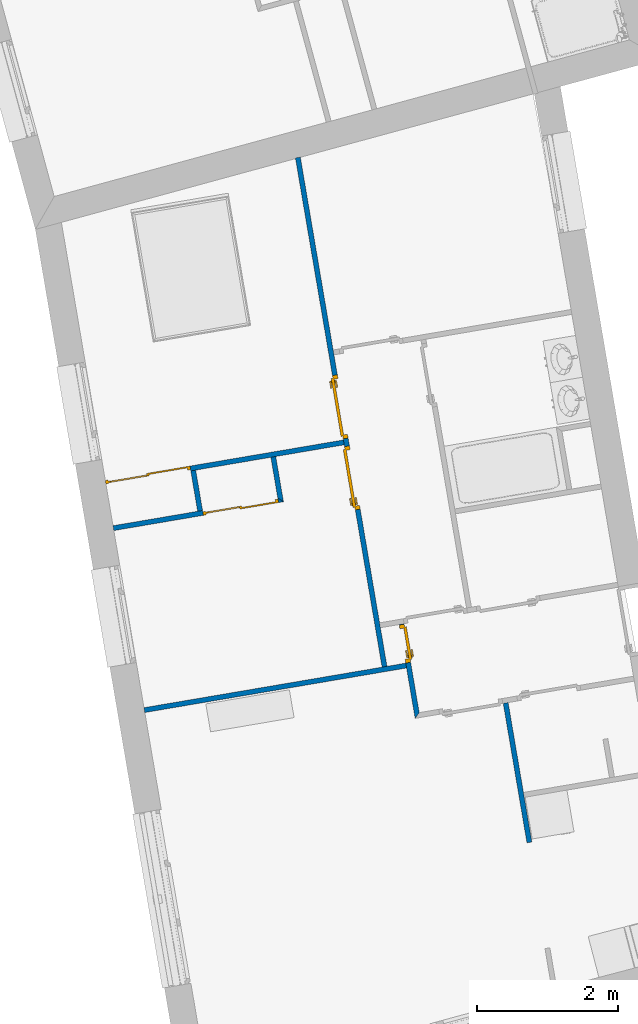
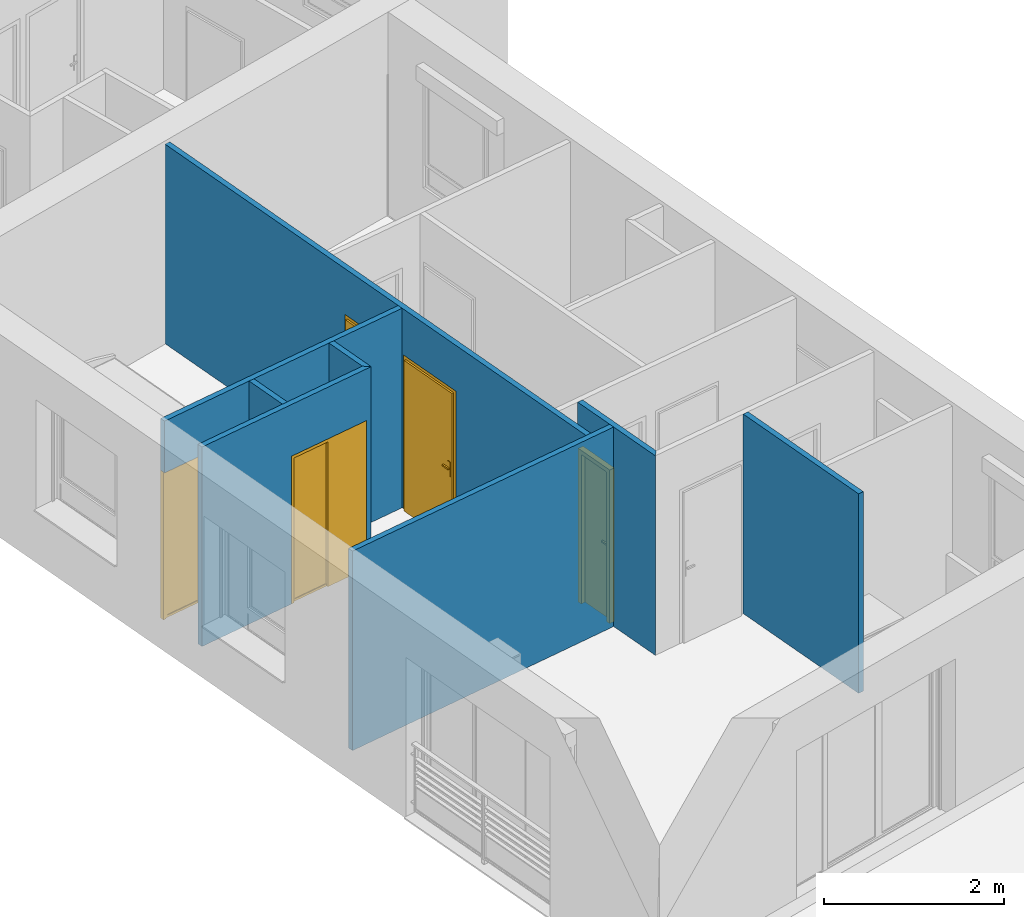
# One storey, part 74 of 121: 8 walls, 5 doors, 5 openings.
"""IFC2X3 building model written with IfcOpenShell, lengths in metres."""

from ifc_helpers import new_model, entity, si_unit, converted_unit, derived_unit, money_unit, direction, frame, origin_with_axes, origin_2d_with_axis, place, context, subcontext, project, spatial, polyline, rectangle, outline, extrude, open_shell, faceted_brep, surface_model, source, transform, mapped, material, layer, layer_set, layer_usage, type_object, element, fill, save


model = new_model("IFC2X3")

# Units and contexts
model_context = context("Model", 3, precision=1e-05, world=origin_with_axes(), true_north=direction((0.0, 1.0)))
body_context = subcontext(model_context, "Body", "Model", "MODEL_VIEW")
ifc_project = project(units=[si_unit("LENGTHUNIT", "METRE"), si_unit("AREAUNIT", "SQUARE_METRE"), si_unit("VOLUMEUNIT", "CUBIC_METRE"), converted_unit("PLANEANGLEUNIT", "DEGREE", entity("IfcPlaneAngleMeasure", 0.0174532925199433), si_unit("PLANEANGLEUNIT", "RADIAN"), dimensions=[0, 0, 0, 0, 0, 0, 0]), money_unit("CHF"), converted_unit("TIMEUNIT", "Year", entity("IfcTimeMeasure", 31557600.0), si_unit("TIMEUNIT", "SECOND"), dimensions=[0, 0, 1, 0, 0, 0, 0]), si_unit("MASSUNIT", "GRAM", prefix="KILO"), si_unit("THERMODYNAMICTEMPERATUREUNIT", "DEGREE_CELSIUS"), si_unit("LUMINOUSINTENSITYUNIT", "LUMEN"), si_unit("ENERGYUNIT", "JOULE", prefix="MEGA"), derived_unit("THERMALCONDUCTANCEUNIT", [(si_unit("POWERUNIT", "WATT"), 1), (si_unit("LENGTHUNIT", "METRE"), -1), (si_unit("THERMODYNAMICTEMPERATUREUNIT", "KELVIN"), -1)]), derived_unit("SPECIFICHEATCAPACITYUNIT", [(si_unit("ENERGYUNIT", "JOULE"), 1), (si_unit("MASSUNIT", "GRAM", prefix="KILO"), -1), (si_unit("THERMODYNAMICTEMPERATUREUNIT", "KELVIN"), -1)]), derived_unit("MASSDENSITYUNIT", [(si_unit("MASSUNIT", "GRAM", prefix="KILO"), 1), (si_unit("VOLUMEUNIT", "CUBIC_METRE"), -1)])], contexts=[model_context])

# Site, building, storey
site_placement = place(None, origin_with_axes())
site = spatial("IfcSite", under=ifc_project, at=site_placement, Name="Site", CompositionType="ELEMENT")
building_placement = place(site_placement, origin_with_axes())
building = spatial("IfcBuilding", under=site, at=building_placement, Name="Bâtiment", CompositionType="ELEMENT")
storey_placement = place(building_placement, frame((0.0, 0.0, 2.75), z_axis=(0.0, 0.0, 1.0), x_axis=(1.0, 0.0, 0.0)))
storey = spatial("IfcBuildingStorey", under=building, at=storey_placement, Name="Etage 1", CompositionType="ELEMENT", Elevation=2.75)

# Wall, opening, door
ifc_material = material(Name="Hachure solide 268963992")
ifc_layer = layer(ifc_material, 0.07, ventilated="UNKNOWN")
ifc_layer_set = layer_set([ifc_layer], Name="Cloison 70 0826278243")
ifc_layer_usage_1 = layer_usage(ifc_layer_set, "AXIS2", "NEGATIVE", 0.0)
wall_type = type_object("IfcWallType", Name="Cloison 70 0826278243 70", PredefinedType="NOTDEFINED")
wall_1_placement = place(storey_placement, frame((9585.211298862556, -1029.967921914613, 57.7), z_axis=(0.0, 0.0, 1.0), x_axis=(-0.1677527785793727, 0.98582909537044, 0.0)))
wall_1 = element("IfcWallStandardCase", 1, at=wall_1_placement, inside=storey, type_object=wall_type, material=ifc_layer_usage_1, Name="Mur-149", context=body_context, shape_type="SweptSolid", body=[
    extrude(outline(polyline([(0.07000000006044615, -0.07000000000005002), (1.348501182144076, -0.07000000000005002), (1.348501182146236, 0.0), (0.0, 0.0), (0.07000000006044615, -0.07000000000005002)])), origin_with_axes(), (0.0, 0.0, 1.0), 2.7),
])
opening_1_placement = place(wall_1_placement, frame((1.067283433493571, 0.0, 0.0), z_axis=(0.0, 0.0, 1.0), x_axis=(1.0, 0.0, 0.0)))
opening_1 = element("IfcOpeningElement", 2, at=opening_1_placement, cuts=wall_1, Name="Por-320", context=body_context, shape_type="SweptSolid", body=[
    extrude(rectangle(XDim=0.547405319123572, YDim=2.079999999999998, at=origin_2d_with_axis()), frame((-2.722657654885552e-09, 0.07000000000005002, 1.039999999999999), z_axis=(0.0, 1.0, 0.0), x_axis=(1.0, 0.0, 0.0)), (0.0, 0.0, -1.0), 0.14),
])
door_style_1 = type_object("IfcDoorStyle", Name="Porte_1v", ConstructionType="NOTDEFINED", OperationType="NOTDEFINED", ParameterTakesPrecedence=False, Sizeable=False)
shared_shape_1 = source(origin_with_axes(), body_context, "Body", "Brep", [
    faceted_brep([(-0.2737026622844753, 0.0, 0.0), (-0.2737026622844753, 0.0, 2.08), (0.2737026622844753, 0.0, 2.08), (0.2737026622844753, 0.0, 0.0), (0.2337026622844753, 0.0, 0.0), (0.2337026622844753, 0.0, 2.04), (-0.2337026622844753, 0.0, 2.04), (-0.2337026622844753, 0.0, 0.0), (-0.2737026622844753, -0.07, 0.0), (-0.2737026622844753, -0.07, 2.08), (0.2737026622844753, -0.07, 2.08), (0.2737026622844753, -0.07, 0.0), (0.2187026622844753, -0.07, 0.0), (0.2187026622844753, -0.015, 0.0), (0.2337026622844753, -0.015, 0.0), (0.2337026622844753, -0.015, 2.04), (-0.2337026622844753, -0.015, 2.04), (-0.2337026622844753, -0.015, 0.0), (-0.2187026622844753, -0.015, 0.0), (-0.2187026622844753, -0.07, 0.0), (-0.2187026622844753, -0.07, 2.025), (0.2187026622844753, -0.07, 2.025), (0.2187026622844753, -0.015, 2.025), (-0.2187026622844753, -0.015, 2.025)], [[[0, 1, 2, 3, 4, 5, 6, 7]], [[8, 9, 1, 0]], [[9, 10, 2, 1]], [[10, 11, 3, 2]], [[3, 11, 12, 13, 14, 4]], [[5, 4, 14, 15]], [[6, 5, 15, 16]], [[7, 6, 16, 17]], [[0, 7, 17, 18, 19, 8]], [[19, 20, 21, 12, 11, 10, 9, 8]], [[22, 13, 12, 21]], [[17, 16, 15, 14, 13, 22, 23, 18]], [[18, 23, 20, 19]], [[23, 22, 21, 20]]]),
    faceted_brep([(0.1687026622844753, -0.015, 0.9), (0.1687026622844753, -0.015, 1.1), (0.2087026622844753, -0.015, 1.1), (0.2087026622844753, -0.015, 0.9), (0.1687026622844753, -0.025, 0.9), (0.1687026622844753, -0.025, 1.1), (0.2087026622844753, -0.025, 1.1), (0.2087026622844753, -0.025, 0.9)], [[[0, 1, 2, 3]], [[0, 4, 5, 1]], [[1, 5, 6, 2]], [[2, 6, 7, 3]], [[3, 7, 4, 0]], [[7, 6, 5, 4]]]),
    faceted_brep([(0.0987026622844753, -0.025, 1.0), (0.0987026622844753, -0.025, 1.02), (0.1987026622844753, -0.025, 1.02), (0.1987026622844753, -0.025, 1.0), (0.0987026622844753, -0.045, 1.0), (0.0987026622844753, -0.045, 1.02), (0.1987026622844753, -0.045, 1.02), (0.1987026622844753, -0.045, 1.0)], [[[0, 1, 2, 3]], [[0, 4, 5, 1]], [[1, 5, 6, 2]], [[2, 6, 7, 3]], [[3, 7, 4, 0]], [[7, 6, 5, 4]]]),
    faceted_brep([(0.1687026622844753, 0.035, 0.9), (0.1687026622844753, 0.035, 1.1), (0.2087026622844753, 0.035, 1.1), (0.2087026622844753, 0.035, 0.9), (0.1687026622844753, 0.025, 0.9), (0.1687026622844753, 0.025, 1.1), (0.2087026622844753, 0.025, 1.1), (0.2087026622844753, 0.025, 0.9)], [[[0, 1, 2, 3]], [[0, 4, 5, 1]], [[1, 5, 6, 2]], [[2, 6, 7, 3]], [[3, 7, 4, 0]], [[7, 6, 5, 4]]]),
    faceted_brep([(0.0987026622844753, 0.05500000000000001, 1.0), (0.0987026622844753, 0.05500000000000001, 1.02), (0.1987026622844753, 0.05500000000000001, 1.02), (0.1987026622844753, 0.05500000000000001, 1.0), (0.0987026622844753, 0.035, 1.0), (0.0987026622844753, 0.035, 1.02), (0.1987026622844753, 0.035, 1.02), (0.1987026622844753, 0.035, 1.0)], [[[0, 1, 2, 3]], [[0, 4, 5, 1]], [[1, 5, 6, 2]], [[2, 6, 7, 3]], [[3, 7, 4, 0]], [[7, 6, 5, 4]]]),
    faceted_brep([(0.2337026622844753, 0.025, 0.0), (0.2337026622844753, -0.015, 0.0), (-0.2337026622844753, -0.015, 0.0), (-0.2337026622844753, 0.025, 0.0), (0.2337026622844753, 0.025, 2.04), (0.2337026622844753, -0.015, 2.04), (-0.2337026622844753, -0.015, 2.04), (-0.2337026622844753, 0.025, 2.04)], [[[0, 1, 2, 3]], [[4, 5, 1, 0]], [[1, 5, 6, 2]], [[3, 2, 6, 7]], [[0, 3, 7, 4]], [[7, 6, 5, 4]]]),
])
door_1_placement = place(opening_1_placement, frame((0.2337026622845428, 0.0, 0.0), z_axis=(0.0, 0.0, 1.0), x_axis=(-1.0, 0.0, 0.0)))
door_1 = element("IfcDoor", 3, at=door_1_placement, inside=storey, type_object=door_style_1, Name="Por-320", OverallHeight=2.04, OverallWidth=0.467405, context=body_context, shape_type="MappedRepresentation", body=[
    mapped(shared_shape_1, transform((0.2337026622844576, 0.07000000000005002, 0.0))),
])
fill(opening_1, door_1)

# Wall
ifc_layer_usage_2 = layer_usage(ifc_layer_set, "AXIS2", "NEGATIVE", 0.0)
wall_2_placement = place(storey_placement, frame((9582.142737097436, -1027.104185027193, 57.7), z_axis=(0.0, 0.0, 1.0), x_axis=(-0.1677527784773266, 0.9858290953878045, 0.0)))
element("IfcWallStandardCase", 4, at=wall_2_placement, inside=storey, type_object=wall_type, material=ifc_layer_usage_2, Name="Mur-149", context=body_context, shape_type="SweptSolid", body=[
    extrude(outline(polyline([(0.0700000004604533, -0.06999999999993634), (0.6499928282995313, -0.07000000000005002), (0.6499928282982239, 0.0), (0.07000000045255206, 0.0), (0.0700000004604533, -0.06999999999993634)])), origin_with_axes(), (0.0, 0.0, 1.0), 2.7),
])

# Wall, opening, door
ifc_layer_usage_3 = layer_usage(ifc_layer_set, "AXIS2", "NEGATIVE", 0.0)
wall_3_placement = place(storey_placement, frame((9584.276142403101, -1026.081819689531, 57.7), z_axis=(0.0, 0.0, 1.0), x_axis=(-0.9858290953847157, -0.1677527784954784, 0.0)))
wall_3 = element("IfcWallStandardCase", 5, at=wall_3_placement, inside=storey, type_object=wall_type, material=ifc_layer_usage_3, Name="Mur-149", context=body_context, shape_type="SweptSolid", body=[
    extrude(outline(polyline([(0.07000000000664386, -0.06999999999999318), (3.49114517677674, -0.06999999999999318), (3.49114517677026, 0.0), (0.06999999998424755, 0.0), (0.07000000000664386, -0.06999999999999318)])), origin_with_axes(), (0.0, 0.0, 1.0), 2.7),
])
opening_2_placement = place(wall_3_placement, frame((2.882911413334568, 0.0, 0.0), z_axis=(0.0, 0.0, 1.0), x_axis=(1.0, 0.0, 0.0)))
opening_2 = element("IfcOpeningElement", 6, at=opening_2_placement, cuts=wall_3, Name="Por-358", context=body_context, shape_type="SweptSolid", body=[
    extrude(rectangle(XDim=1.216467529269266, YDim=2.0, at=origin_2d_with_axis()), frame((0.0, -0.0700000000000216, 1.0), z_axis=(0.0, 1.0, 0.0), x_axis=(1.0, 0.0, 0.0)), (0.0, 0.0, -1.0), 0.07),
    extrude(rectangle(XDim=1.216467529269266, YDim=2.0, at=origin_2d_with_axis()), frame((0.0, -0.07000000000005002, 1.0), z_axis=(0.0, -1.0, 0.0), x_axis=(1.0, 0.0, 0.0)), (0.0, 0.0, -1.0), 0.07),
])
door_style_2 = type_object("IfcDoorStyle", ConstructionType="NOTDEFINED", OperationType="NOTDEFINED", ParameterTakesPrecedence=False, Sizeable=False)
shared_shape_2 = source(origin_with_axes(), body_context, "Body", "SurfaceModel", [
    faceted_brep([(0.6082337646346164, 0.0, 0.0), (0.5682337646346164, 0.0, 0.0), (0.5682337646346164, 0.0, 1.96), (-0.5682337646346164, 0.0, 1.96), (-0.5682337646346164, 0.0, 0.0), (-0.6082337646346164, 0.0, 0.0), (-0.6082337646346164, 0.0, 2.0), (0.6082337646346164, 0.0, 2.0), (0.6082337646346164, -0.05, 0.0), (0.5682337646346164, -0.05, 0.0), (0.5682337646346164, -0.04000000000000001, 0.0), (0.5682337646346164, -0.04000000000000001, 1.96), (-0.5682337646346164, -0.03999999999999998, 1.96), (-0.5682337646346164, -0.03999999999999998, 0.0), (-0.5682337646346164, -0.04999999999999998, 0.0), (-0.6082337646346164, -0.04999999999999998, 0.0), (-0.6082337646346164, -0.04999999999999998, 2.0), (0.6082337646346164, -0.05, 2.0), (-0.5682337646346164, -0.04999999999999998, 1.96), (0.5682337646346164, -0.05, 1.96)], [[[0, 1, 2, 3, 4, 5, 6, 7]], [[0, 8, 9, 10, 1]], [[1, 10, 11, 2]], [[2, 11, 12, 3]], [[3, 12, 13, 4]], [[5, 4, 13, 14, 15]], [[16, 6, 5, 15]], [[17, 7, 6, 16]], [[8, 0, 7, 17]], [[9, 8, 17, 16, 15, 14, 18, 19]], [[10, 9, 19, 11]], [[11, 19, 18, 12]], [[12, 18, 14, 13]]]),
    faceted_brep([(-0.5682337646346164, -0.01999999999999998, 0.0), (0.01500000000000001, -0.02, 0.0), (0.01500000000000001, -0.03999999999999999, 0.0), (-0.5682337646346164, -0.03999999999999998, 0.0), (-0.5682337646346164, -0.01999999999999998, 1.96), (0.01500000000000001, -0.02, 1.96), (-0.5382337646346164, -0.01999999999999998, 0.03), (-0.0149999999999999, -0.02, 0.03), (-0.0149999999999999, -0.02, 1.93), (-0.5382337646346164, -0.01999999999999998, 1.93), (0.01500000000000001, -0.03999999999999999, 1.96), (-0.5682337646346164, -0.03999999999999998, 1.96), (-0.5382337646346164, -0.03999999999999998, 0.03), (-0.5382337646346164, -0.03999999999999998, 1.93), (-0.0149999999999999, -0.03999999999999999, 1.93), (-0.0149999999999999, -0.03999999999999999, 0.03)], [[[0, 1, 2, 3]], [[0, 4, 5, 1], [6, 7, 8, 9]], [[1, 5, 10, 2]], [[3, 2, 10, 11], [12, 13, 14, 15]], [[4, 0, 3, 11]], [[5, 4, 11, 10]], [[7, 6, 12, 15]], [[8, 7, 15, 14]], [[9, 8, 14, 13]], [[6, 9, 13, 12]]]),
    surface_model("IfcShellBasedSurfaceModel", [(-0.5382337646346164, -0.02999999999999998, 0.03), (-0.0149999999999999, -0.02999999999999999, 0.03), (-0.0149999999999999, -0.02999999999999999, 1.93), (-0.5382337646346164, -0.02999999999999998, 1.93)], [open_shell([[[0, 1, 2, 3]]])]),
    faceted_brep([(-0.01500000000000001, 0.0, 0.0), (0.5682337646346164, 0.0, 0.0), (0.5682337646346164, -0.02000000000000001, 0.0), (-0.01500000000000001, -0.02, 0.0), (-0.01500000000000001, 0.0, 1.96), (0.5682337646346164, 0.0, 1.96), (0.5682337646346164, -0.02000000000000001, 1.96), (-0.01500000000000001, -0.02, 1.96)], [[[0, 1, 2, 3]], [[0, 4, 5, 1]], [[1, 5, 6, 2]], [[3, 2, 6, 7]], [[4, 0, 3, 7]], [[5, 4, 7, 6]]]),
])
door_2_placement = place(opening_2_placement, frame((0.6082337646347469, 0.0, 0.0), z_axis=(0.0, 0.0, 1.0), x_axis=(-1.0, 0.0, 0.0)))
door_2 = element("IfcDoor", 7, at=door_2_placement, inside=storey, type_object=door_style_2, Name="Por-358", OverallHeight=2.0, OverallWidth=1.21647, context=body_context, shape_type="MappedRepresentation", body=[
    mapped(shared_shape_2, transform((0.6082337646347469, 0.06999999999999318, 0.0))),
])
fill(opening_2, door_2)

# Wall
ifc_layer_usage_4 = layer_usage(ifc_layer_set, "AXIS2", "POSITIVE", 0.0)
wall_4_placement = place(storey_placement, frame((9585.078171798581, -1029.185577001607, 57.7), z_axis=(0.0, 0.0, 1.0), x_axis=(-0.985829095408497, -0.1677527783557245, 0.0)))
element("IfcWallStandardCase", 8, at=wall_4_placement, inside=storey, type_object=wall_type, material=ifc_layer_usage_4, Name="Mur-149", context=body_context, shape_type="SweptSolid", body=[
    extrude(outline(polyline([(0.0, 0.0), (3.761145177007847, 0.0), (3.761145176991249, 0.0700000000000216), (-1.001581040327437e-10, 0.0700000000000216), (0.0, 0.0)])), origin_with_axes(), (0.0, 0.0, 1.0), 2.7),
])

# Wall, openings, doors
ifc_layer_usage_5 = layer_usage(ifc_layer_set, "AXIS2", "NEGATIVE", 0.0)
wall_5_placement = place(storey_placement, frame((9583.584749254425, -1022.018724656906, 57.7), z_axis=(0.0, 0.0, 1.0), x_axis=(0.1677527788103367, -0.9858290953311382, 0.0)))
wall_5 = element("IfcWallStandardCase", 9, at=wall_5_placement, inside=storey, type_object=wall_type, material=ifc_layer_usage_5, Name="Mur-149", context=body_context, shape_type="SweptSolid", body=[
    extrude(outline(polyline([(0.0, -0.07000000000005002), (7.315817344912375, -0.07000000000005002), (7.315817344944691, 0.0), (0.0, 0.0), (0.0, -0.07000000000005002)])), origin_with_axes(), (0.0, 0.0, 1.0), 2.7),
])
opening_3_placement = place(wall_5_placement, frame((3.58120269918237, 0.0, 0.0), z_axis=(0.0, 0.0, 1.0), x_axis=(1.0, 0.0, 0.0)))
opening_3 = element("IfcOpeningElement", 10, at=opening_3_placement, cuts=wall_5, Name="Por-301", context=body_context, shape_type="SweptSolid", body=[
    extrude(rectangle(XDim=0.9099999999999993, YDim=2.079999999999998, at=origin_2d_with_axis()), frame((0.0, 0.07000000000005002, 1.039999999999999), z_axis=(0.0, 1.0, 0.0), x_axis=(1.0, 0.0, 0.0)), (0.0, 0.0, -1.0), 0.14),
])
opening_4_placement = place(wall_5_placement, frame((4.602404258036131, 0.0, 0.0), z_axis=(0.0, 0.0, 1.0), x_axis=(1.0, 0.0, 0.0)))
opening_4 = element("IfcOpeningElement", 11, at=opening_4_placement, cuts=wall_5, Name="Por-302", context=body_context, shape_type="SweptSolid", body=[
    extrude(rectangle(XDim=0.9099999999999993, YDim=2.079999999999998, at=origin_2d_with_axis()), frame((0.0, 0.06999999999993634, 1.039999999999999), z_axis=(0.0, -1.0, 0.0), x_axis=(-1.0, 0.0, 0.0)), (0.0, 0.0, 1.0), 0.14),
])
shared_shape_3 = source(origin_with_axes(), body_context, "Body", "Brep", [
    faceted_brep([(0.455, 0.0, 0.0), (0.415, 0.0, 0.0), (0.415, 0.0, 2.04), (-0.415, 0.0, 2.04), (-0.415, 0.0, 0.0), (-0.455, 0.0, 0.0), (-0.455, 0.0, 2.08), (0.455, 0.0, 2.08), (0.455, -0.07, 0.0), (0.4, -0.07, 0.0), (0.4, -0.015, 0.0), (0.415, -0.015, 0.0), (0.415, -0.015, 2.04), (-0.415, -0.015, 2.04), (-0.415, -0.015, 0.0), (-0.4, -0.015, 0.0), (-0.4, -0.07, 0.0), (-0.455, -0.07, 0.0), (-0.455, -0.07, 2.08), (0.455, -0.07, 2.08), (-0.4, -0.07, 2.025), (0.4, -0.07, 2.025), (0.4, -0.015, 2.025), (-0.4, -0.015, 2.025)], [[[0, 1, 2, 3, 4, 5, 6, 7]], [[0, 8, 9, 10, 11, 1]], [[1, 11, 12, 2]], [[2, 12, 13, 3]], [[3, 13, 14, 4]], [[5, 4, 14, 15, 16, 17]], [[18, 6, 5, 17]], [[19, 7, 6, 18]], [[8, 0, 7, 19]], [[9, 8, 19, 18, 17, 16, 20, 21]], [[10, 9, 21, 22]], [[11, 10, 22, 23, 15, 14, 13, 12]], [[23, 20, 16, 15]], [[22, 21, 20, 23]]]),
    faceted_brep([(-0.35, -0.015, 0.9), (-0.39, -0.015, 0.9), (-0.39, -0.015, 1.1), (-0.35, -0.015, 1.1), (-0.35, -0.025, 0.9), (-0.39, -0.025, 0.9), (-0.39, -0.025, 1.1), (-0.35, -0.025, 1.1)], [[[0, 1, 2, 3]], [[1, 0, 4, 5]], [[2, 1, 5, 6]], [[3, 2, 6, 7]], [[0, 3, 7, 4]], [[5, 4, 7, 6]]]),
    faceted_brep([(-0.28, -0.025, 1.0), (-0.38, -0.025, 1.0), (-0.38, -0.025, 1.02), (-0.28, -0.025, 1.02), (-0.28, -0.045, 1.0), (-0.38, -0.045, 1.0), (-0.38, -0.045, 1.02), (-0.28, -0.045, 1.02)], [[[0, 1, 2, 3]], [[1, 0, 4, 5]], [[2, 1, 5, 6]], [[3, 2, 6, 7]], [[0, 3, 7, 4]], [[5, 4, 7, 6]]]),
    faceted_brep([(-0.35, 0.035, 0.9), (-0.39, 0.035, 0.9), (-0.39, 0.035, 1.1), (-0.35, 0.035, 1.1), (-0.35, 0.025, 0.9), (-0.39, 0.025, 0.9), (-0.39, 0.025, 1.1), (-0.35, 0.025, 1.1)], [[[0, 1, 2, 3]], [[1, 0, 4, 5]], [[2, 1, 5, 6]], [[3, 2, 6, 7]], [[0, 3, 7, 4]], [[5, 4, 7, 6]]]),
    faceted_brep([(-0.28, 0.05500000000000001, 1.0), (-0.38, 0.05500000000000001, 1.0), (-0.38, 0.05500000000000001, 1.02), (-0.28, 0.05500000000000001, 1.02), (-0.28, 0.035, 1.0), (-0.38, 0.035, 1.0), (-0.38, 0.035, 1.02), (-0.28, 0.035, 1.02)], [[[0, 1, 2, 3]], [[1, 0, 4, 5]], [[2, 1, 5, 6]], [[3, 2, 6, 7]], [[0, 3, 7, 4]], [[5, 4, 7, 6]]]),
    faceted_brep([(-0.415, 0.025, 0.0), (0.415, 0.025, 0.0), (0.415, -0.015, 0.0), (-0.415, -0.015, 0.0), (-0.415, 0.025, 2.04), (0.415, 0.025, 2.04), (0.415, -0.015, 2.04), (-0.415, -0.015, 2.04)], [[[0, 1, 2, 3]], [[0, 4, 5, 1]], [[1, 5, 6, 2]], [[3, 2, 6, 7]], [[4, 0, 3, 7]], [[5, 4, 7, 6]]]),
])
door_3_placement = place(opening_4_placement, frame((0.4150000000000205, 0.0, 0.0), z_axis=(0.0, 0.0, 1.0), x_axis=(-1.0, 0.0, 0.0)))
door_3 = element("IfcDoor", 12, at=door_3_placement, inside=storey, type_object=door_style_1, Name="Por-302", OverallHeight=2.04, OverallWidth=0.83, context=body_context, shape_type="MappedRepresentation", body=[
    mapped(shared_shape_3, transform((0.4149999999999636, 0.06999999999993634, 0.0))),
])
fill(opening_4, door_3)
shared_shape_4 = source(origin_with_axes(), body_context, "Body", "Brep", [
    faceted_brep([(-0.455, 0.0, 0.0), (-0.455, 0.0, 2.08), (0.455, 0.0, 2.08), (0.455, 0.0, 0.0), (0.415, 0.0, 0.0), (0.415, 0.0, 2.04), (-0.415, 0.0, 2.04), (-0.415, 0.0, 0.0), (-0.455, -0.07, 0.0), (-0.455, -0.07, 2.08), (0.455, -0.07, 2.08), (0.455, -0.07, 0.0), (0.4, -0.07, 0.0), (0.4, -0.015, 0.0), (0.415, -0.015, 0.0), (0.415, -0.015, 2.04), (-0.415, -0.015, 2.04), (-0.415, -0.015, 0.0), (-0.4, -0.015, 0.0), (-0.4, -0.07, 0.0), (-0.4, -0.07, 2.025), (0.4, -0.07, 2.025), (0.4, -0.015, 2.025), (-0.4, -0.015, 2.025)], [[[0, 1, 2, 3, 4, 5, 6, 7]], [[8, 9, 1, 0]], [[9, 10, 2, 1]], [[10, 11, 3, 2]], [[3, 11, 12, 13, 14, 4]], [[5, 4, 14, 15]], [[6, 5, 15, 16]], [[7, 6, 16, 17]], [[0, 7, 17, 18, 19, 8]], [[19, 20, 21, 12, 11, 10, 9, 8]], [[22, 13, 12, 21]], [[17, 16, 15, 14, 13, 22, 23, 18]], [[18, 23, 20, 19]], [[23, 22, 21, 20]]]),
    faceted_brep([(0.35, -0.015, 0.9), (0.35, -0.015, 1.1), (0.39, -0.015, 1.1), (0.39, -0.015, 0.9), (0.35, -0.025, 0.9), (0.35, -0.025, 1.1), (0.39, -0.025, 1.1), (0.39, -0.025, 0.9)], [[[0, 1, 2, 3]], [[0, 4, 5, 1]], [[1, 5, 6, 2]], [[2, 6, 7, 3]], [[3, 7, 4, 0]], [[7, 6, 5, 4]]]),
    faceted_brep([(0.28, -0.025, 1.0), (0.28, -0.025, 1.02), (0.38, -0.025, 1.02), (0.38, -0.025, 1.0), (0.28, -0.045, 1.0), (0.28, -0.045, 1.02), (0.38, -0.045, 1.02), (0.38, -0.045, 1.0)], [[[0, 1, 2, 3]], [[0, 4, 5, 1]], [[1, 5, 6, 2]], [[2, 6, 7, 3]], [[3, 7, 4, 0]], [[7, 6, 5, 4]]]),
    faceted_brep([(0.35, 0.035, 0.9), (0.35, 0.035, 1.1), (0.39, 0.035, 1.1), (0.39, 0.035, 0.9), (0.35, 0.025, 0.9), (0.35, 0.025, 1.1), (0.39, 0.025, 1.1), (0.39, 0.025, 0.9)], [[[0, 1, 2, 3]], [[0, 4, 5, 1]], [[1, 5, 6, 2]], [[2, 6, 7, 3]], [[3, 7, 4, 0]], [[7, 6, 5, 4]]]),
    faceted_brep([(0.28, 0.05500000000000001, 1.0), (0.28, 0.05500000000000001, 1.02), (0.38, 0.05500000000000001, 1.02), (0.38, 0.05500000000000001, 1.0), (0.28, 0.035, 1.0), (0.28, 0.035, 1.02), (0.38, 0.035, 1.02), (0.38, 0.035, 1.0)], [[[0, 1, 2, 3]], [[0, 4, 5, 1]], [[1, 5, 6, 2]], [[2, 6, 7, 3]], [[3, 7, 4, 0]], [[7, 6, 5, 4]]]),
    faceted_brep([(0.415, 0.025, 0.0), (0.415, -0.015, 0.0), (-0.415, -0.015, 0.0), (-0.415, 0.025, 0.0), (0.415, 0.025, 2.04), (0.415, -0.015, 2.04), (-0.415, -0.015, 2.04), (-0.415, 0.025, 2.04)], [[[0, 1, 2, 3]], [[4, 5, 1, 0]], [[1, 5, 6, 2]], [[3, 2, 6, 7]], [[0, 3, 7, 4]], [[7, 6, 5, 4]]]),
])
door_4_placement = place(opening_3_placement, frame((0.4150000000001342, 0.0, 0.0), z_axis=(0.0, 0.0, 1.0), x_axis=(-1.0, 0.0, 0.0)))
door_4 = element("IfcDoor", 13, at=door_4_placement, inside=storey, type_object=door_style_1, Name="Por-301", OverallHeight=2.04, OverallWidth=0.83, context=body_context, shape_type="MappedRepresentation", body=[
    mapped(shared_shape_4, transform((0.4150000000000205, 0.07000000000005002, 0.0))),
])
fill(opening_3, door_4)

# Wall, opening, door
ifc_layer_usage_6 = layer_usage(ifc_layer_set, "AXIS2", "NEGATIVE", 0.0)
wall_6_placement = place(storey_placement, frame((9583.276806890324, -1026.911206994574, 57.7), z_axis=(0.0, 0.0, 1.0), x_axis=(-0.9858290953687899, -0.1677527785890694, 0.0)))
wall_6 = element("IfcWallStandardCase", 14, at=wall_6_placement, inside=storey, type_object=wall_type, material=ifc_layer_usage_6, Name="Mur-149", context=body_context, shape_type="SweptSolid", body=[
    extrude(outline(polyline([(0.0, -0.06999999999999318), (2.366839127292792, -0.06999999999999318), (2.366839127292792, 0.0), (-0.07000000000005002, 0.0), (0.0, -0.06999999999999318)])), origin_with_axes(), (0.0, 0.0, 1.0), 2.7),
])
opening_5_placement = place(wall_6_placement, frame((0.5401857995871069, 0.0, 0.0), z_axis=(0.0, 0.0, 1.0), x_axis=(1.0, 0.0, 0.0)))
opening_5 = element("IfcOpeningElement", 15, at=opening_5_placement, cuts=wall_6, Name="Por-357", context=body_context, shape_type="SweptSolid", body=[
    extrude(rectangle(XDim=1.080371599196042, YDim=2.0, at=origin_2d_with_axis()), frame((0.0, 0.0, 1.0), z_axis=(0.0, -1.0, 0.0), x_axis=(1.0, 0.0, 0.0)), (0.0, 0.0, -1.0), 0.07),
    extrude(rectangle(XDim=1.080371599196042, YDim=2.0, at=origin_2d_with_axis()), frame((0.0, 0.0, 1.0), z_axis=(0.0, 1.0, 0.0), x_axis=(1.0, 0.0, 0.0)), (0.0, 0.0, -1.0), 0.07),
])
shared_shape_5 = source(origin_with_axes(), body_context, "Body", "SurfaceModel", [
    faceted_brep([(-0.5401857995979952, 0.0, 0.0), (-0.5401857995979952, 0.0, 2.0), (0.5401857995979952, 0.0, 2.0), (0.5401857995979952, 0.0, 0.0), (0.5001857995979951, 0.0, 0.0), (0.5001857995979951, 0.0, 1.96), (-0.5001857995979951, 0.0, 1.96), (-0.5001857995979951, 0.0, 0.0), (-0.5401857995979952, -0.05, 0.0), (-0.5401857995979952, -0.05, 2.0), (0.5401857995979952, -0.05, 2.0), (0.5401857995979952, -0.05, 0.0), (0.5001857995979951, -0.05, 0.0), (0.5001857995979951, -0.04, 0.0), (0.5001857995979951, -0.04, 1.96), (-0.5001857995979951, -0.04, 1.96), (-0.5001857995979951, -0.04, 0.0), (-0.5001857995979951, -0.05, 0.0), (-0.5001857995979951, -0.05, 1.96), (0.5001857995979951, -0.05, 1.96)], [[[0, 1, 2, 3, 4, 5, 6, 7]], [[8, 9, 1, 0]], [[9, 10, 2, 1]], [[10, 11, 3, 2]], [[3, 11, 12, 13, 4]], [[5, 4, 13, 14]], [[6, 5, 14, 15]], [[7, 6, 15, 16]], [[0, 7, 16, 17, 8]], [[17, 18, 19, 12, 11, 10, 9, 8]], [[14, 13, 12, 19]], [[15, 14, 19, 18]], [[16, 15, 18, 17]]]),
    faceted_brep([(0.5001857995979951, -0.02, 0.0), (0.5001857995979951, -0.04, 0.0), (-0.01500000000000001, -0.04, 0.0), (-0.01500000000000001, -0.02, 0.0), (0.5001857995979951, -0.02, 1.96), (0.5001857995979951, -0.04, 1.96), (-0.01500000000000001, -0.04, 1.96), (0.4701857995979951, -0.04, 0.03), (0.01500000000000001, -0.04, 0.03), (0.01500000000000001, -0.04, 1.93), (0.4701857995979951, -0.04, 1.93), (-0.01500000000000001, -0.02, 1.96), (0.4701857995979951, -0.02, 0.03), (0.4701857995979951, -0.02, 1.93), (0.01500000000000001, -0.02, 1.93), (0.01500000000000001, -0.02, 0.03)], [[[0, 1, 2, 3]], [[4, 5, 1, 0]], [[1, 5, 6, 2], [7, 8, 9, 10]], [[3, 2, 6, 11]], [[0, 3, 11, 4], [12, 13, 14, 15]], [[11, 6, 5, 4]], [[15, 8, 7, 12]], [[14, 9, 8, 15]], [[13, 10, 9, 14]], [[12, 7, 10, 13]]]),
    surface_model("IfcShellBasedSurfaceModel", [(0.4701857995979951, -0.03, 0.03), (0.4701857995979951, -0.03, 1.93), (0.01499999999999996, -0.03, 1.93), (0.01499999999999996, -0.03, 0.03)], [open_shell([[[0, 1, 2, 3]]])]),
    faceted_brep([(0.01500000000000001, 0.0, 0.0), (0.01500000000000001, -0.02, 0.0), (-0.5001857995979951, -0.02, 0.0), (-0.5001857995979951, 0.0, 0.0), (0.01500000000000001, 0.0, 1.96), (0.01500000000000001, -0.02, 1.96), (-0.5001857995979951, -0.02, 1.96), (-0.5001857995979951, 0.0, 1.96)], [[[0, 1, 2, 3]], [[4, 5, 1, 0]], [[1, 5, 6, 2]], [[3, 2, 6, 7]], [[0, 3, 7, 4]], [[7, 6, 5, 4]]]),
])
door_5_placement = place(opening_5_placement, frame((-0.5401857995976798, 0.0, 0.0), z_axis=(0.0, 0.0, 1.0), x_axis=(1.0, 0.0, 0.0)))
door_5 = element("IfcDoor", 16, at=door_5_placement, inside=storey, type_object=door_style_2, Name="Por-357", OverallHeight=2.0, OverallWidth=1.08037, context=body_context, shape_type="MappedRepresentation", body=[
    mapped(shared_shape_5, transform((0.5401857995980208, 0.0, 0.0))),
])
fill(opening_5, door_5)

# Walls
ifc_layer_usage_7 = layer_usage(ifc_layer_set, "AXIS2", "NEGATIVE", 0.0)
wall_7_placement = place(storey_placement, frame((9583.276806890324, -1026.911206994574, 57.7), z_axis=(0.0, 0.0, 1.0), x_axis=(-0.1677527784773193, 0.9858290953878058, 0.0)))
element("IfcWallStandardCase", 17, at=wall_7_placement, inside=storey, type_object=wall_type, material=ifc_layer_usage_7, Name="Mur-149", context=body_context, shape_type="SweptSolid", body=[
    extrude(outline(polyline([(0.0, -0.07000000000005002), (0.6499928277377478, -0.07000000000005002), (0.6499928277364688, 0.0), (0.06999999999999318, 0.0), (0.0, -0.07000000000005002)])), origin_with_axes(), (0.0, 0.0, 1.0), 2.7),
])
ifc_layer_usage_8 = layer_usage(ifc_layer_set, "AXIS2", "NEGATIVE", 0.0)
wall_8_placement = place(storey_placement, frame((9586.528077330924, -1029.743853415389, 57.7), z_axis=(0.0, 0.0, 1.0), x_axis=(0.1677527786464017, -0.9858290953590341, 0.0)))
element("IfcWallStandardCase", 18, at=wall_8_placement, inside=storey, type_object=wall_type, material=ifc_layer_usage_8, Name="Mur-149", context=body_context, shape_type="SweptSolid", body=[
    extrude(outline(polyline([(-1.003769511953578e-09, -0.06999999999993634), (2.003969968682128, -0.07000000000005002), (2.003969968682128, 0.0), (-9.982272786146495e-10, 0.0), (-1.003769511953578e-09, -0.06999999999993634)])), origin_with_axes(), (0.0, 0.0, 1.0), 2.7),
])

save(model, "model.ifc")
